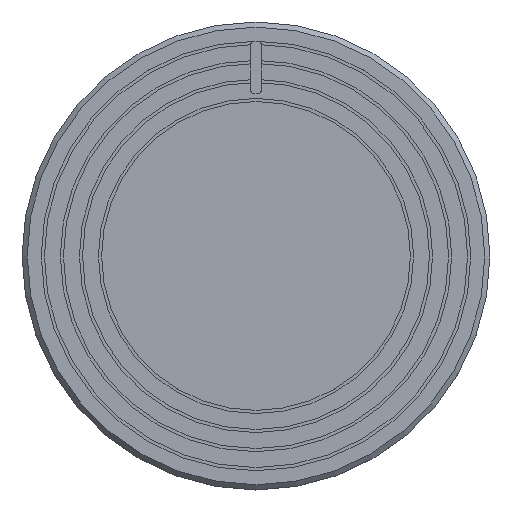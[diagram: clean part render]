
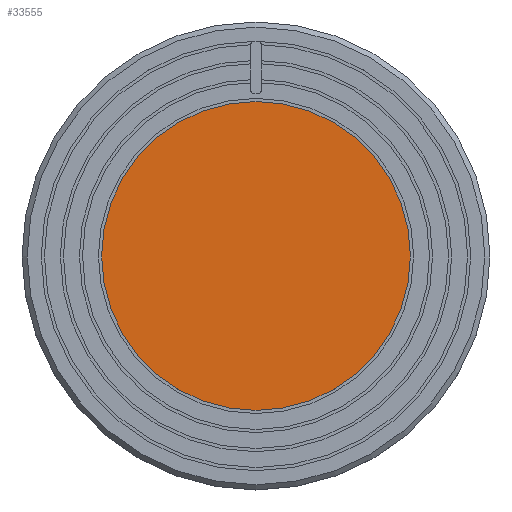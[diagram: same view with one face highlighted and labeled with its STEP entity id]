
A CAD part, top view. The second image highlights one B-rep face of the part: STEP entity #33555.
In plain terms, the highlighted planar face has unit normal (0, 0, 1).
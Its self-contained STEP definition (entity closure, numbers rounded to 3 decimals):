
#33485 = CYLINDRICAL_SURFACE('',#33486,17.82);
#33486 = AXIS2_PLACEMENT_3D('',#33487,#33488,#33489);
#33487 = CARTESIAN_POINT('',(0.,0.,
    26.55));
#33488 = DIRECTION('',(-0.,-0.,-1.));
#33489 = DIRECTION('',(1.,0.,0.));
#33502 = VERTEX_POINT('',#33503);
#33503 = CARTESIAN_POINT('',(17.82,0.,26.7));
#33524 = EDGE_CURVE('',#33502,#33502,#33525,.T.);
#33525 = SURFACE_CURVE('',#33526,(#33531,#33538),.PCURVE_S1.);
#33526 = CIRCLE('',#33527,17.82);
#33527 = AXIS2_PLACEMENT_3D('',#33528,#33529,#33530);
#33528 = CARTESIAN_POINT('',(0.,0.,26.7
    ));
#33529 = DIRECTION('',(0.,0.,-1.));
#33530 = DIRECTION('',(1.,0.,0.));
#33531 = PCURVE('',#33485,#33532);
#33532 = DEFINITIONAL_REPRESENTATION('',(#33533),#33537);
#33533 = LINE('',#33534,#33535);
#33534 = CARTESIAN_POINT('',(-6.283,-0.15));
#33535 = VECTOR('',#33536,1.);
#33536 = DIRECTION('',(1.,-0.));
#33537 = ( GEOMETRIC_REPRESENTATION_CONTEXT(2) 
PARAMETRIC_REPRESENTATION_CONTEXT() REPRESENTATION_CONTEXT('2D SPACE',''
  ) );
#33538 = PCURVE('',#33539,#33544);
#33539 = PLANE('',#33540);
#33540 = AXIS2_PLACEMENT_3D('',#33541,#33542,#33543);
#33541 = CARTESIAN_POINT('',(0.,0.,26.7
    ));
#33542 = DIRECTION('',(0.,0.,1.));
#33543 = DIRECTION('',(1.,0.,-0.));
#33544 = DEFINITIONAL_REPRESENTATION('',(#33545),#33553);
#33545 = ( BOUNDED_CURVE() B_SPLINE_CURVE(2,(#33546,#33547,#33548,#33549
    ,#33550,#33551,#33552),.UNSPECIFIED.,.T.,.F.) 
B_SPLINE_CURVE_WITH_KNOTS((1,2,2,2,2,1),(-2.094,0.,
    2.094,4.189,6.283,8.378),
.UNSPECIFIED.) CURVE() GEOMETRIC_REPRESENTATION_ITEM() 
RATIONAL_B_SPLINE_CURVE((1.,0.5,1.,0.5,1.,0.5,1.)) REPRESENTATION_ITEM(
  '') );
#33546 = CARTESIAN_POINT('',(17.82,0.));
#33547 = CARTESIAN_POINT('',(17.82,-30.865));
#33548 = CARTESIAN_POINT('',(-8.91,-15.433));
#33549 = CARTESIAN_POINT('',(-35.64,0.));
#33550 = CARTESIAN_POINT('',(-8.91,15.433));
#33551 = CARTESIAN_POINT('',(17.82,30.865));
#33552 = CARTESIAN_POINT('',(17.82,0.));
#33553 = ( GEOMETRIC_REPRESENTATION_CONTEXT(2) 
PARAMETRIC_REPRESENTATION_CONTEXT() REPRESENTATION_CONTEXT('2D SPACE',''
  ) );
#33555 = ADVANCED_FACE('',(#33556),#33539,.T.);
#33556 = FACE_BOUND('',#33557,.T.);
#33557 = EDGE_LOOP('',(#33558));
#33558 = ORIENTED_EDGE('',*,*,#33524,.F.);
